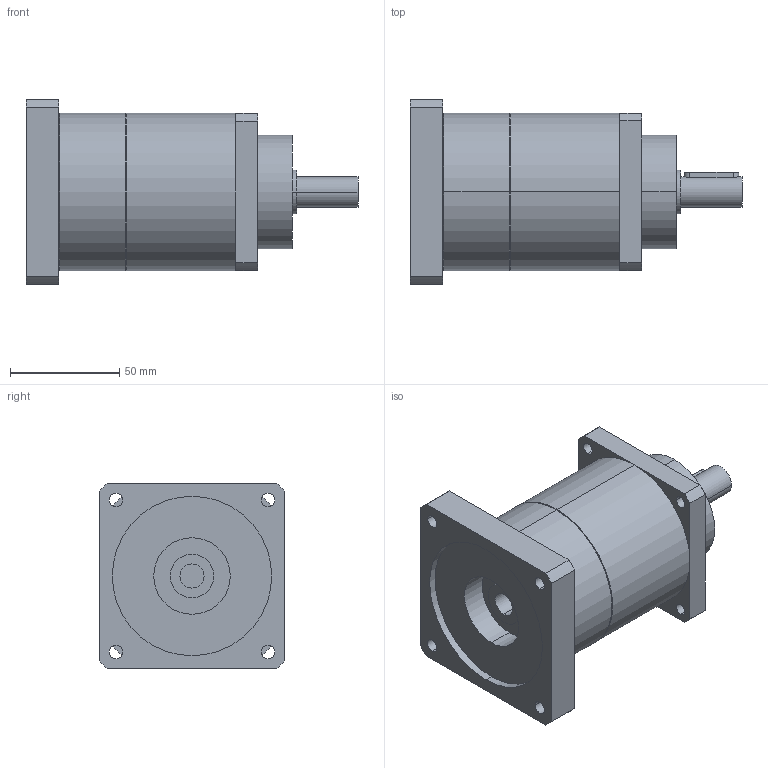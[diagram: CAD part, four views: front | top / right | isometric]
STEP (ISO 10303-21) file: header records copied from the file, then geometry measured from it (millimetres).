
FILE_DESCRIPTION(('CoCreate Modeling STEP Export'),'2;1');
FILE_NAME('GPT75_ig-9-12-16-20-25-28-35-40-50-70-100_14_B5T_11_P36.stp','2014-08-27T13:34:54',(''),(''),'CoCreate Modeling STEP processor for AP214 (Solid Model)','CoCreate Modeling 16.00C 25-Feb-2009 (C) Parametric Technology GmbH','');
FILE_SCHEMA(('AUTOMOTIVE_DESIGN { 1 0 10303 214 1 1 1 1 }'));
Length unit declared in the file: millimetre
Products named in the file (2): GPT75_ig-9-12-16-20-25-28-35-40-50-70-100_14_B5T_11_P36
Assembly tree (1 placements, depth 2):
  GPT75_ig-9-12-16-20-25-28-35-40-50-70-100_14_B5T_11_P36
    GPT75_ig-9-12-16-20-25-28-35-40-50-70-100_14_B5T_11_P36
Bounding box: 152 x 85 x 85 mm (x, y, z)
Volume: 497930.3 mm3; surface area: 52065.5 mm2
Topology: 1 solids, 1 shells, 77 faces, 194 edges, 129 vertices
Faces by surface type: cylinder 46, plane 27, cone 4
Entity records: 2484 total; most frequent: CARTESIAN_POINT 719, ORIENTED_EDGE 388, DIRECTION 320, EDGE_CURVE 194, VERTEX_POINT 129, AXIS2_PLACEMENT_3D 118, EDGE_LOOP 103, VECTOR 84
